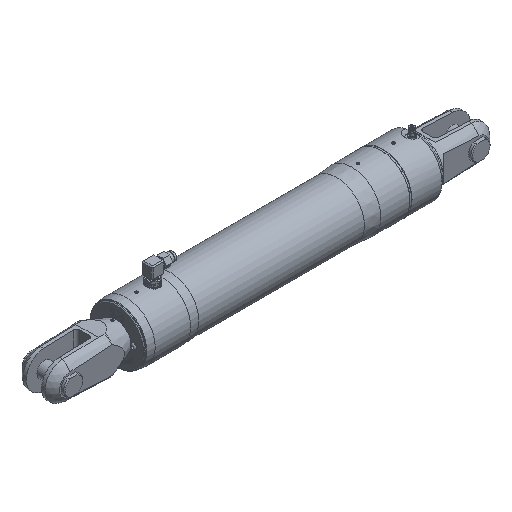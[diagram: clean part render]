
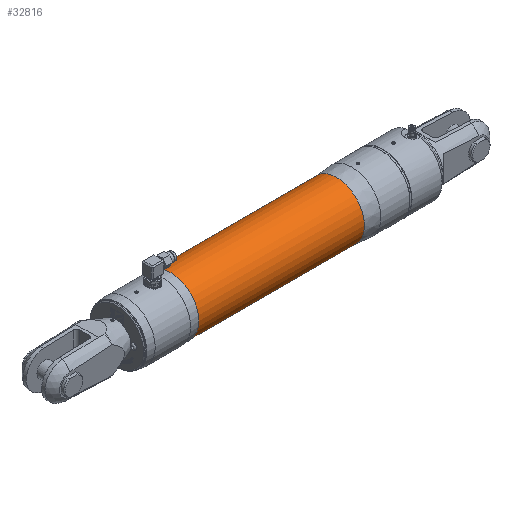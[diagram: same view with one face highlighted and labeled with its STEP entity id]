
A CAD part, isometric view. The second image highlights one B-rep face of the part: STEP entity #32816.
In plain terms, the highlighted cylindrical face has radius 52.1 mm (diameter 104.2 mm), a full revolution.
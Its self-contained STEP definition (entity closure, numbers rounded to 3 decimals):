
#3488=FACE_OUTER_BOUND('',#5282,.T.);
#5282=EDGE_LOOP('',(#22400,#22401,#22402,#22403,#22404,#22405));
#7230=LINE('',#44020,#10187);
#10187=VECTOR('',#37184,52.1);
#13084=CIRCLE('',#34824,52.1);
#13085=CIRCLE('',#34825,52.1);
#13086=CIRCLE('',#34827,52.1);
#13087=CIRCLE('',#34828,52.1);
#13690=VERTEX_POINT('',#44011);
#13691=VERTEX_POINT('',#44012);
#13692=VERTEX_POINT('',#44017);
#13693=VERTEX_POINT('',#44018);
#17059=EDGE_CURVE('',#13690,#13691,#13084,.T.);
#17061=EDGE_CURVE('',#13691,#13690,#13085,.T.);
#17062=EDGE_CURVE('',#13692,#13693,#13086,.T.);
#17063=EDGE_CURVE('',#13693,#13691,#7230,.T.);
#17064=EDGE_CURVE('',#13693,#13692,#13087,.T.);
#22400=ORIENTED_EDGE('',*,*,#17062,.T.);
#22401=ORIENTED_EDGE('',*,*,#17063,.T.);
#22402=ORIENTED_EDGE('',*,*,#17059,.F.);
#22403=ORIENTED_EDGE('',*,*,#17061,.F.);
#22404=ORIENTED_EDGE('',*,*,#17063,.F.);
#22405=ORIENTED_EDGE('',*,*,#17064,.T.);
#30774=CYLINDRICAL_SURFACE('',#34826,52.1);
#32816=ADVANCED_FACE('',(#3488),#30774,.T.);
#34824=AXIS2_PLACEMENT_3D('',#44013,#37175,#37176);
#34825=AXIS2_PLACEMENT_3D('',#44015,#37178,#37179);
#34826=AXIS2_PLACEMENT_3D('',#44016,#37180,#37181);
#34827=AXIS2_PLACEMENT_3D('',#44019,#37182,#37183);
#34828=AXIS2_PLACEMENT_3D('',#44021,#37185,#37186);
#37175=DIRECTION('center_axis',(1.,0.,0.));
#37176=DIRECTION('ref_axis',(0.,0.,
-1.));
#37178=DIRECTION('center_axis',(1.,0.,0.));
#37179=DIRECTION('ref_axis',(0.,0.,
-1.));
#37180=DIRECTION('center_axis',(1.,0.,0.));
#37181=DIRECTION('ref_axis',(0.,0.,
1.));
#37182=DIRECTION('center_axis',(1.,0.,0.));
#37183=DIRECTION('ref_axis',(0.,0.,
-1.));
#37184=DIRECTION('',(1.,0.,0.));
#37185=DIRECTION('center_axis',(1.,0.,0.));
#37186=DIRECTION('ref_axis',(0.,0.,
-1.));
#44011=CARTESIAN_POINT('',(-73.185,0.,52.1));
#44012=CARTESIAN_POINT('',(-73.185,0.,-52.1));
#44013=CARTESIAN_POINT('Origin',(-73.185,0.,
0.));
#44015=CARTESIAN_POINT('Origin',(-73.185,0.,
0.));
#44016=CARTESIAN_POINT('Origin',(-227.959,0.,
0.));
#44017=CARTESIAN_POINT('',(-382.734,0.,52.1));
#44018=CARTESIAN_POINT('',(-382.734,0.,-52.1));
#44019=CARTESIAN_POINT('Origin',(-382.734,0.,
0.));
#44020=CARTESIAN_POINT('',(-227.959,0.,-52.1));
#44021=CARTESIAN_POINT('Origin',(-382.734,0.,
0.));
